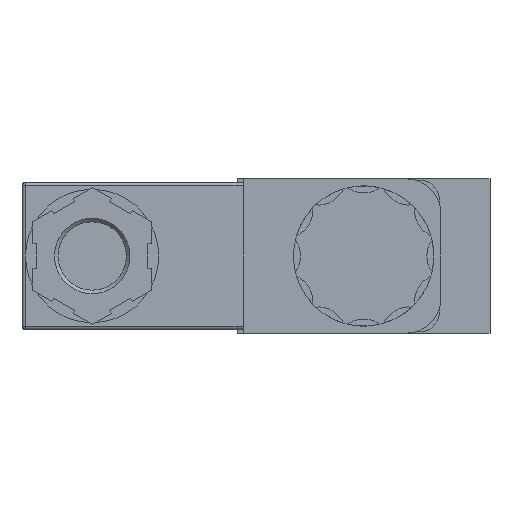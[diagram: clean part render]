
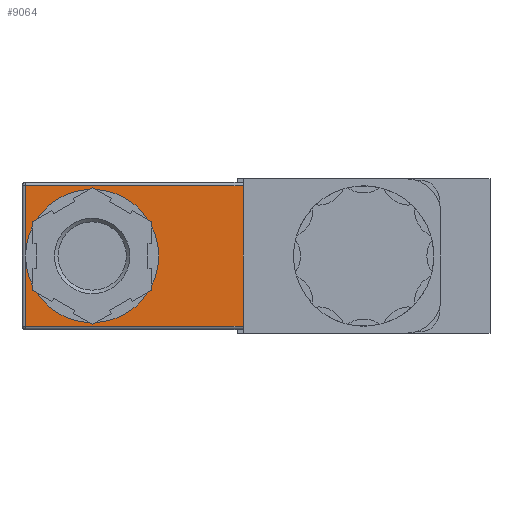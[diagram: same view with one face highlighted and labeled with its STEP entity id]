
A CAD part, left-side view. The second image highlights one B-rep face of the part: STEP entity #9064.
In plain terms, the highlighted planar face has unit normal (-1, 0, 0).
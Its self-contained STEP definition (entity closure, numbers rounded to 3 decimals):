
#300=CIRCLE('',#9476,9.5);
#669=ORIENTED_EDGE('',*,*,#2289,.T.);
#670=ORIENTED_EDGE('',*,*,#2404,.T.);
#671=ORIENTED_EDGE('',*,*,#2405,.T.);
#672=ORIENTED_EDGE('',*,*,#2376,.F.);
#673=ORIENTED_EDGE('',*,*,#2406,.T.);
#674=ORIENTED_EDGE('',*,*,#2407,.T.);
#2289=EDGE_CURVE('',#3178,#3177,#3804,.T.);
#2376=EDGE_CURVE('',#3249,#3249,#300,.F.);
#2404=EDGE_CURVE('',#3177,#3270,#3906,.F.);
#2405=EDGE_CURVE('',#3270,#3249,#3907,.F.);
#2406=EDGE_CURVE('',#3249,#3271,#3908,.F.);
#2407=EDGE_CURVE('',#3271,#3178,#3909,.F.);
#3177=VERTEX_POINT('',#11754);
#3178=VERTEX_POINT('',#11756);
#3249=VERTEX_POINT('',#11928);
#3270=VERTEX_POINT('',#11990);
#3271=VERTEX_POINT('',#11993);
#3804=LINE('',#11755,#4393);
#3906=LINE('',#11989,#4495);
#3907=LINE('',#11991,#4496);
#3908=LINE('',#11992,#4497);
#3909=LINE('',#11994,#4498);
#4393=VECTOR('',#10038,1000.);
#4495=VECTOR('',#10220,1000.);
#4496=VECTOR('',#10221,1000.);
#4497=VECTOR('',#10222,1000.);
#4498=VECTOR('',#10223,1000.);
#5002=EDGE_LOOP('',(#669,#670,#671,#672,#673,#674));
#5556=FACE_BOUND('',#5002,.T.);
#6097=PLANE('',#9495);
#9064=ADVANCED_FACE('',(#5556),#6097,.F.);
#9476=AXIS2_PLACEMENT_3D('',#11927,#10159,#10160);
#9495=AXIS2_PLACEMENT_3D('',#11988,#10218,#10219);
#10038=DIRECTION('',(0.,0.,1.));
#10159=DIRECTION('',(1.,0.,0.));
#10160=DIRECTION('',(0.,0.,1.));
#10218=DIRECTION('',(1.,0.,0.));
#10219=DIRECTION('',(0.,0.,1.));
#10220=DIRECTION('',(0.,-1.,0.));
#10221=DIRECTION('',(0.,0.,1.));
#10222=DIRECTION('',(0.,0.,1.));
#10223=DIRECTION('',(0.,1.,0.));
#11754=CARTESIAN_POINT('',(-87.,17.2,10.));
#11755=CARTESIAN_POINT('',(-87.,17.2,-7.5));
#11756=CARTESIAN_POINT('',(-87.,17.2,-10.));
#11927=CARTESIAN_POINT('',(-87.,38.7,0.));
#11928=CARTESIAN_POINT('',(-87.,48.2,0.));
#11988=CARTESIAN_POINT('',(-87.,45.7,6.245));
#11989=CARTESIAN_POINT('',(-87.,45.7,10.));
#11990=CARTESIAN_POINT('',(-87.,48.2,10.));
#11991=CARTESIAN_POINT('',(-87.,48.2,-10.5));
#11992=CARTESIAN_POINT('',(-87.,48.2,-10.5));
#11993=CARTESIAN_POINT('',(-87.,48.2,-10.));
#11994=CARTESIAN_POINT('',(-87.,45.7,-10.));
